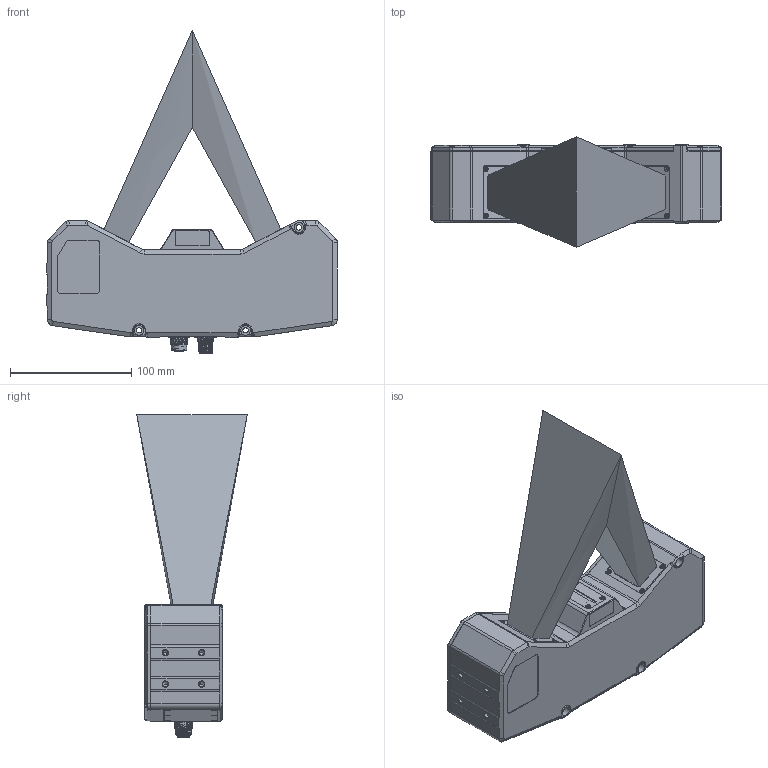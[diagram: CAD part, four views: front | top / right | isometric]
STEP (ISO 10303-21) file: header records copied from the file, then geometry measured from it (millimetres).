
FILE_DESCRIPTION((''),'2;1');
FILE_NAME('MV-DP2120-01D_V2_0','2026-06-15T20:12:38',('liudeting'),(''),'CREO PARAMETRIC BY PTC INC, 2020044','CREO PARAMETRIC BY PTC INC, 2020044','');
FILE_SCHEMA(('AUTOMOTIVE_DESIGN { 1 0 10303 214 1 1 1 1 }'));
Products named in the file (1): MV-DP2120-01D_V2_0
Bounding box: 240 x 91.4 x 266.4 mm (x, y, z)
Surface area: 144493 mm2 (no closed solid volume)
Topology: 0 solids, 62 shells, 1002 faces, 3413 edges, 2422 vertices
Faces by surface type: plane 436, cylinder 262, cone 177, torus 68, bspline 55, extrusion 4
Entity records: 56181 total; most frequent: CARTESIAN_POINT 27169, DIRECTION 5840, ORIENTED_EDGE 5694, EDGE_CURVE 3381, VERTEX_POINT 2422, AXIS2_PLACEMENT_3D 2049, VECTOR 1742, LINE 1738
